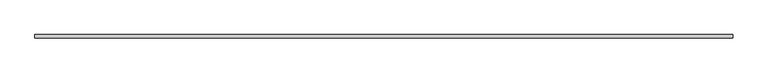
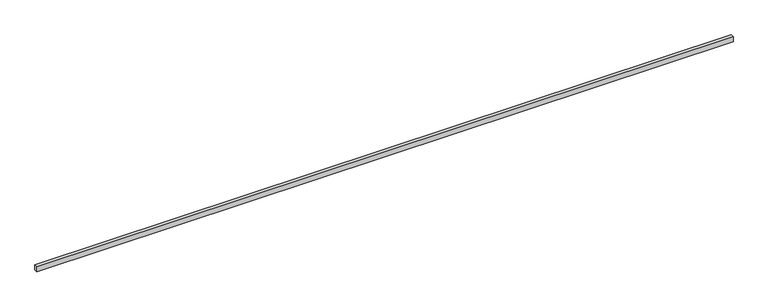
"""IFC4 building model written with IfcOpenShell, lengths in millimetres: proxy geometry, Кабель-каналы_магистральные_цвет-белый : Кабель-канал магистральный 15х10 белый."""

from ifc_helpers import new_model, si_unit, origin, origin_with_axes, place, context, project, spatial, polyline, outline, extrude, source, transform, mapped, element, save


def generic_models_da9c50e6(model_context):
    return source(origin(), model_context, "Body", "SweptSolid", [
        extrude(outline(polyline([(2000.0, -10.0), (0.0, -10.0), (0.0, 0.0), (2000.0, 0.0), (2000.0, -10.0)])), origin_with_axes(), (0.0, 0.0, 1.0), 15.0),
    ])


if __name__ == "__main__":
    model = new_model("IFC4")
    model_context = context("Model", 3, world=origin())
    ifc_project = project(units=[si_unit("LENGTHUNIT", "METRE", prefix="MILLI")], contexts=[model_context])
    site = spatial("IfcSite", under=ifc_project)
    building = spatial("IfcBuilding", under=site)
    placement = place(None, origin())
    generic_models_shape = generic_models_da9c50e6(model_context)
    element("IfcBuildingElementProxy", 1, Name="Кабель-каналы_магистральные_цвет-белый : Кабель-канал магистральный 15х10 белый", ObjectType="Кабель-каналы_магистральные_цвет-белый : Кабель-канал магистральный 15х10 белый", at=placement, inside=building, context=model_context, shape_type="MappedRepresentation", body=[
        mapped(generic_models_shape, transform((0.0, 0.0, 0.0), x_axis=(1.0, 0.0, 0.0), y_axis=(0.0, 1.0, 0.0), z_axis=(0.0, 0.0, 1.0))),
    ])
    save(model, "model.ifc")
